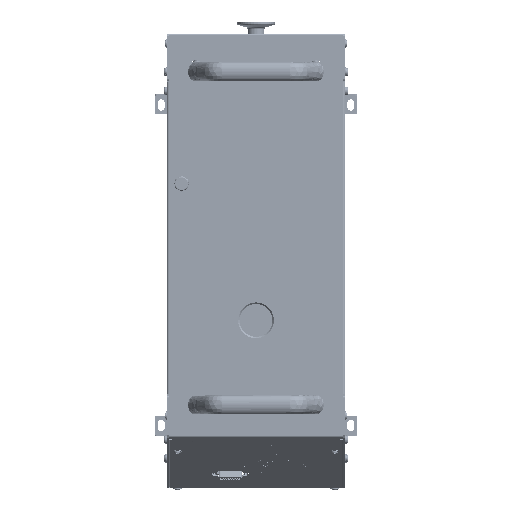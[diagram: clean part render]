
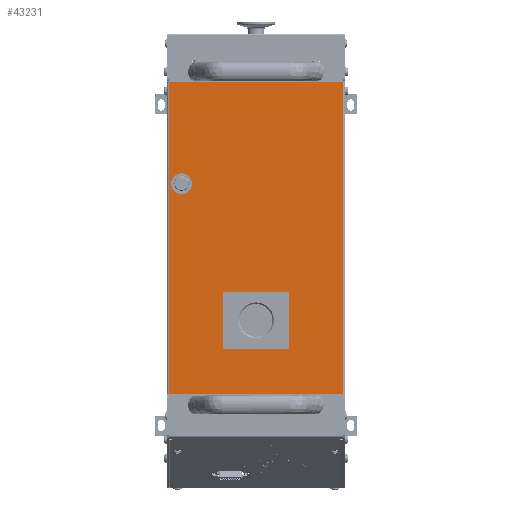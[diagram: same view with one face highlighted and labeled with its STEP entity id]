
A CAD part, top view. The second image highlights one B-rep face of the part: STEP entity #43231.
In plain terms, the highlighted planar face has unit normal (0, 0, 1).
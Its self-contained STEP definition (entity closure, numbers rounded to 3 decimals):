
#2843=FACE_BOUND('',#8075,.T.);
#2844=FACE_BOUND('',#8076,.T.);
#4831=FACE_OUTER_BOUND('',#8074,.T.);
#8074=EDGE_LOOP('',(#35536,#35537,#35538,#35539));
#8075=EDGE_LOOP('',(#35540,#35541,#35542,#35543));
#8076=EDGE_LOOP('',(#35544));
#9778=CIRCLE('',#46986,11.);
#13146=LINE('',#75317,#17000);
#13147=LINE('',#75319,#17001);
#13148=LINE('',#75321,#17002);
#13149=LINE('',#75322,#17003);
#13150=LINE('',#75325,#17004);
#13151=LINE('',#75327,#17005);
#13152=LINE('',#75329,#17006);
#13153=LINE('',#75330,#17007);
#17000=VECTOR('',#56542,1000.);
#17001=VECTOR('',#56543,1000.);
#17002=VECTOR('',#56544,1000.);
#17003=VECTOR('',#56545,1000.);
#17004=VECTOR('',#56546,1000.);
#17005=VECTOR('',#56547,1000.);
#17006=VECTOR('',#56548,1000.);
#17007=VECTOR('',#56549,1000.);
#20799=VERTEX_POINT('',#75315);
#20800=VERTEX_POINT('',#75316);
#20801=VERTEX_POINT('',#75318);
#20802=VERTEX_POINT('',#75320);
#20803=VERTEX_POINT('',#75323);
#20804=VERTEX_POINT('',#75324);
#20805=VERTEX_POINT('',#75326);
#20806=VERTEX_POINT('',#75328);
#20807=VERTEX_POINT('',#75331);
#25905=EDGE_CURVE('',#20799,#20800,#13146,.T.);
#25906=EDGE_CURVE('',#20800,#20801,#13147,.T.);
#25907=EDGE_CURVE('',#20801,#20802,#13148,.T.);
#25908=EDGE_CURVE('',#20799,#20802,#13149,.T.);
#25909=EDGE_CURVE('',#20803,#20804,#13150,.T.);
#25910=EDGE_CURVE('',#20804,#20805,#13151,.T.);
#25911=EDGE_CURVE('',#20805,#20806,#13152,.T.);
#25912=EDGE_CURVE('',#20806,#20803,#13153,.T.);
#25913=EDGE_CURVE('',#20807,#20807,#9778,.T.);
#35536=ORIENTED_EDGE('',*,*,#25905,.T.);
#35537=ORIENTED_EDGE('',*,*,#25906,.T.);
#35538=ORIENTED_EDGE('',*,*,#25907,.T.);
#35539=ORIENTED_EDGE('',*,*,#25908,.F.);
#35540=ORIENTED_EDGE('',*,*,#25909,.T.);
#35541=ORIENTED_EDGE('',*,*,#25910,.T.);
#35542=ORIENTED_EDGE('',*,*,#25911,.T.);
#35543=ORIENTED_EDGE('',*,*,#25912,.T.);
#35544=ORIENTED_EDGE('',*,*,#25913,.F.);
#39681=PLANE('',#46985);
#43231=ADVANCED_FACE('',(#4831,#2843,#2844),#39681,.T.);
#46985=AXIS2_PLACEMENT_3D('',#75314,#56540,#56541);
#46986=AXIS2_PLACEMENT_3D('',#75332,#56550,#56551);
#56540=DIRECTION('center_axis',(0.,0.,1.));
#56541=DIRECTION('ref_axis',(0.,-1.,0.));
#56542=DIRECTION('',(0.,-1.,0.));
#56543=DIRECTION('',(1.,0.,0.));
#56544=DIRECTION('',(0.,1.,0.));
#56545=DIRECTION('',(1.,0.,0.));
#56546=DIRECTION('',(-1.,0.,0.));
#56547=DIRECTION('',(0.,1.,0.));
#56548=DIRECTION('',(1.,0.,0.));
#56549=DIRECTION('',(0.,-1.,0.));
#56550=DIRECTION('center_axis',(0.,0.,1.));
#56551=DIRECTION('ref_axis',(1.,0.,0.));
#75314=CARTESIAN_POINT('Origin',(-140.75,-92.911,130.25));
#75315=CARTESIAN_POINT('',(-140.75,92.,130.25));
#75316=CARTESIAN_POINT('',(-140.75,-92.,130.25));
#75317=CARTESIAN_POINT('',(-140.75,-92.911,130.25));
#75318=CARTESIAN_POINT('',(190.75,-92.,130.25));
#75319=CARTESIAN_POINT('',(-140.75,-92.,130.25));
#75320=CARTESIAN_POINT('',(190.75,92.,130.25));
#75321=CARTESIAN_POINT('',(190.75,-92.911,130.25));
#75322=CARTESIAN_POINT('',(-140.75,92.,130.25));
#75323=CARTESIAN_POINT('',(-32.25,-35.,130.25));
#75324=CARTESIAN_POINT('',(-92.25,-35.,130.25));
#75325=CARTESIAN_POINT('',(-32.25,-35.,130.25));
#75326=CARTESIAN_POINT('',(-92.25,35.,130.25));
#75327=CARTESIAN_POINT('',(-92.25,-35.,130.25));
#75328=CARTESIAN_POINT('',(-32.25,35.,130.25));
#75329=CARTESIAN_POINT('',(-92.25,35.,130.25));
#75330=CARTESIAN_POINT('',(-32.25,35.,130.25));
#75331=CARTESIAN_POINT('',(93.75,79.,130.25));
#75332=CARTESIAN_POINT('Origin',(82.75,79.,130.25));
